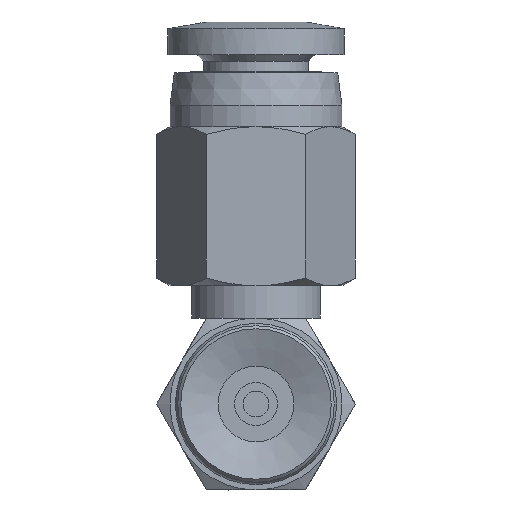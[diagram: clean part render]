
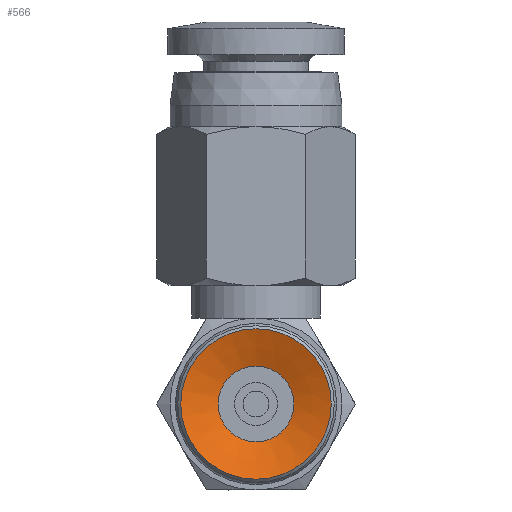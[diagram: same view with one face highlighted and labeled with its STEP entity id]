
A CAD part, front view. The second image highlights one B-rep face of the part: STEP entity #566.
In plain terms, the highlighted conical face has half-angle 70 degrees and reference radius 3.5 mm.
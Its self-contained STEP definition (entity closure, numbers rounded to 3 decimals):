
#566=ADVANCED_FACE('',(#898,#899),#900,.F.);
#898=FACE_BOUND('',#1313,.T.);
#899=FACE_OUTER_BOUND('',#1314,.T.);
#900=CONICAL_SURFACE('',#1315,3.5,1.222);
#1313=EDGE_LOOP('',(#2380));
#1314=EDGE_LOOP('',(#2381));
#1315=AXIS2_PLACEMENT_3D('',#2382,#2383,#2384);
#2380=ORIENTED_EDGE('',*,*,#2904,.F.);
#2381=ORIENTED_EDGE('',*,*,#2885,.T.);
#2382=CARTESIAN_POINT('',(0.0,0.0,0.0));
#2383=DIRECTION('',(-0.0,-1.0,0.));
#2384=DIRECTION('',(0.0,0.,-1.0));
#2885=EDGE_CURVE('',#3280,#3280,#3281,.T.);
#2904=EDGE_CURVE('',#3318,#3318,#3319,.T.);
#3280=VERTEX_POINT('',#4134);
#3281=CIRCLE('',#4135,3.5);
#3318=VERTEX_POINT('',#4172);
#3319=CIRCLE('',#4173,1.765);
#4134=CARTESIAN_POINT('',(0.0,0.,-3.5));
#4135=AXIS2_PLACEMENT_3D('',#4840,#4841,#4842);
#4172=CARTESIAN_POINT('',(0.0,0.632,-1.765));
#4173=AXIS2_PLACEMENT_3D('',#4897,#4898,#4899);
#4840=CARTESIAN_POINT('',(0.0,0.0,0.0));
#4841=DIRECTION('',(0.0,-1.0,0.));
#4842=DIRECTION('',(0.0,0.,-1.0));
#4897=CARTESIAN_POINT('',(0.0,0.632,0.0));
#4898=DIRECTION('',(0.0,-1.0,0.));
#4899=DIRECTION('',(0.0,0.,-1.0));
